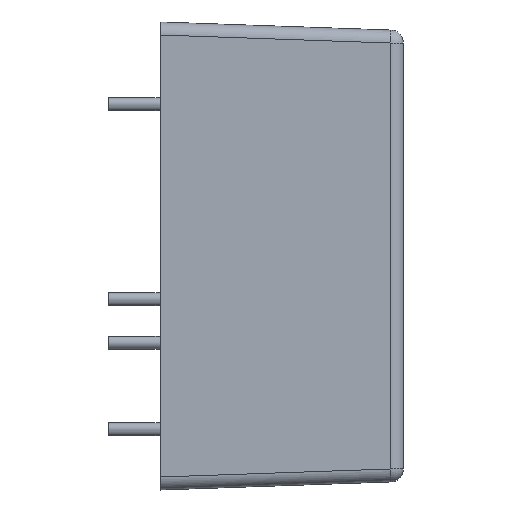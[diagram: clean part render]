
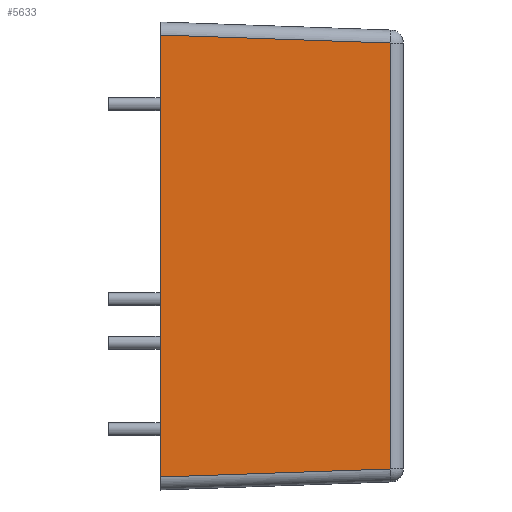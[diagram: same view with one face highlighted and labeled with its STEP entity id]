
A CAD part, left-side view. The second image highlights one B-rep face of the part: STEP entity #5633.
In plain terms, the highlighted planar face has unit normal (-0.999, -0.035, 0).
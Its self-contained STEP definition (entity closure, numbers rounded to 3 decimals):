
#150 = VERTEX_POINT ( 'NONE', #3416 ) ;
#200 = VECTOR ( 'NONE', #1085, 1000. ) ;
#216 = ORIENTED_EDGE ( 'NONE', *, *, #1689, .T. ) ;
#286 = PLANE ( 'NONE',  #2476 ) ;
#521 = DIRECTION ( 'NONE',  ( 0., 0., 1. ) ) ;
#619 = CARTESIAN_POINT ( 'NONE',  ( -38.002, 0.052, -25.503 ) ) ;
#801 = VERTEX_POINT ( 'NONE', #4611 ) ;
#805 = EDGE_CURVE ( 'NONE', #801, #150, #1603, .T. ) ;
#1085 = DIRECTION ( 'NONE',  ( 0.035, -0.999, 0.035 ) ) ;
#1353 = CARTESIAN_POINT ( 'NONE',  ( -37.936, -1.829, 25.437 ) ) ;
#1480 = ORIENTED_EDGE ( 'NONE', *, *, #805, .T. ) ;
#1599 = ORIENTED_EDGE ( 'NONE', *, *, #3195, .T. ) ;
#1603 = LINE ( 'NONE', #619, #200 ) ;
#1689 = EDGE_CURVE ( 'NONE', #150, #3469, #4960, .T. ) ;
#1813 = CARTESIAN_POINT ( 'NONE',  ( -38., 0., -27. ) ) ;
#1862 = CARTESIAN_POINT ( 'NONE',  ( -37.073, -26.552, 26.022 ) ) ;
#1993 = EDGE_LOOP ( 'NONE', ( #2707, #1480, #216, #1599 ) ) ;
#2290 = LINE ( 'NONE', #1353, #4972 ) ;
#2476 = AXIS2_PLACEMENT_3D ( 'NONE', #2521, #5080, #4701 ) ;
#2521 = CARTESIAN_POINT ( 'NONE',  ( -38., 0., -27. ) ) ;
#2707 = ORIENTED_EDGE ( 'NONE', *, *, #4268, .F. ) ;
#3101 = VECTOR ( 'NONE', #521, 1000. ) ;
#3195 = EDGE_CURVE ( 'NONE', #3469, #4758, #2290, .T. ) ;
#3416 = CARTESIAN_POINT ( 'NONE',  ( -37.073, -26.552, -24.574 ) ) ;
#3469 = VERTEX_POINT ( 'NONE', #4359 ) ;
#3571 = DIRECTION ( 'NONE',  ( -0.035, 0.999, 0.035 ) ) ;
#4148 = DIRECTION ( 'NONE',  ( 0., 0., 1. ) ) ;
#4268 = EDGE_CURVE ( 'NONE', #801, #4758, #4502, .T. ) ;
#4334 = CARTESIAN_POINT ( 'NONE',  ( -38., 0., 25.501 ) ) ;
#4359 = CARTESIAN_POINT ( 'NONE',  ( -37.073, -26.552, 24.574 ) ) ;
#4502 = LINE ( 'NONE', #1813, #5373 ) ;
#4611 = CARTESIAN_POINT ( 'NONE',  ( -38., 0., -25.501 ) ) ;
#4701 = DIRECTION ( 'NONE',  ( 0.035, -0.999, 0. ) ) ;
#4758 = VERTEX_POINT ( 'NONE', #4334 ) ;
#4960 = LINE ( 'NONE', #1862, #3101 ) ;
#4972 = VECTOR ( 'NONE', #3571, 1000. ) ;
#5080 = DIRECTION ( 'NONE',  ( -0.999, -0.035, 0. ) ) ;
#5373 = VECTOR ( 'NONE', #4148, 1000. ) ;
#5581 = FACE_OUTER_BOUND ( 'NONE', #1993, .T. ) ;
#5633 = ADVANCED_FACE ( 'NONE', ( #5581 ), #286, .T. ) ;
